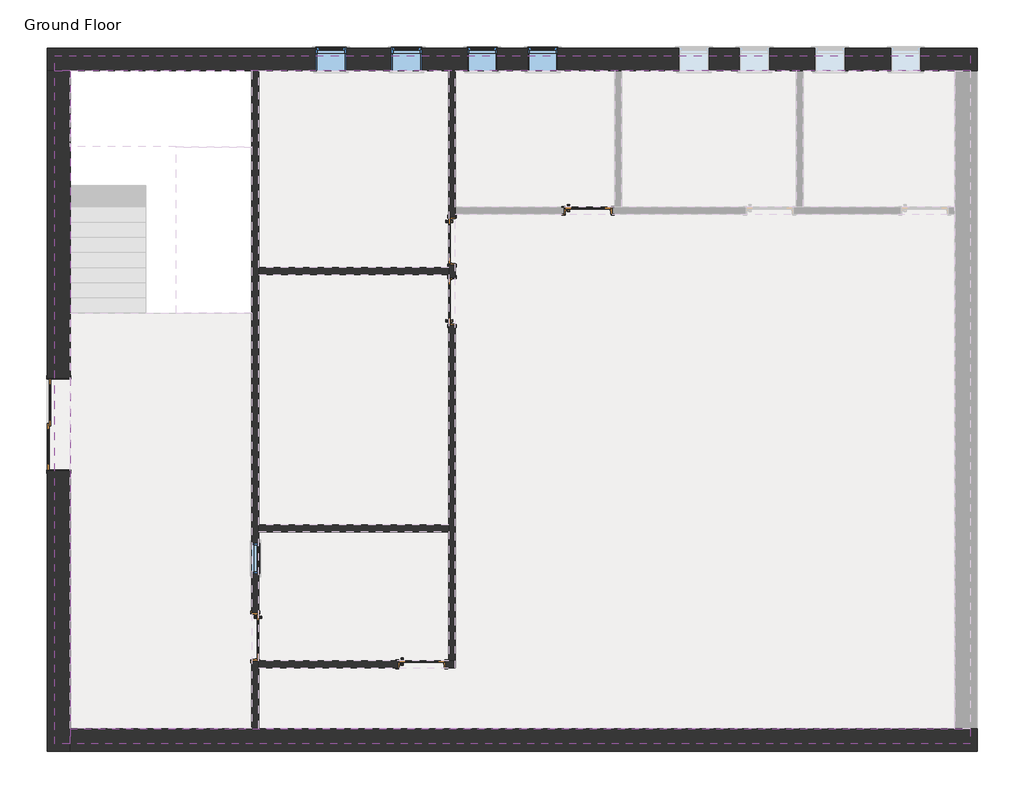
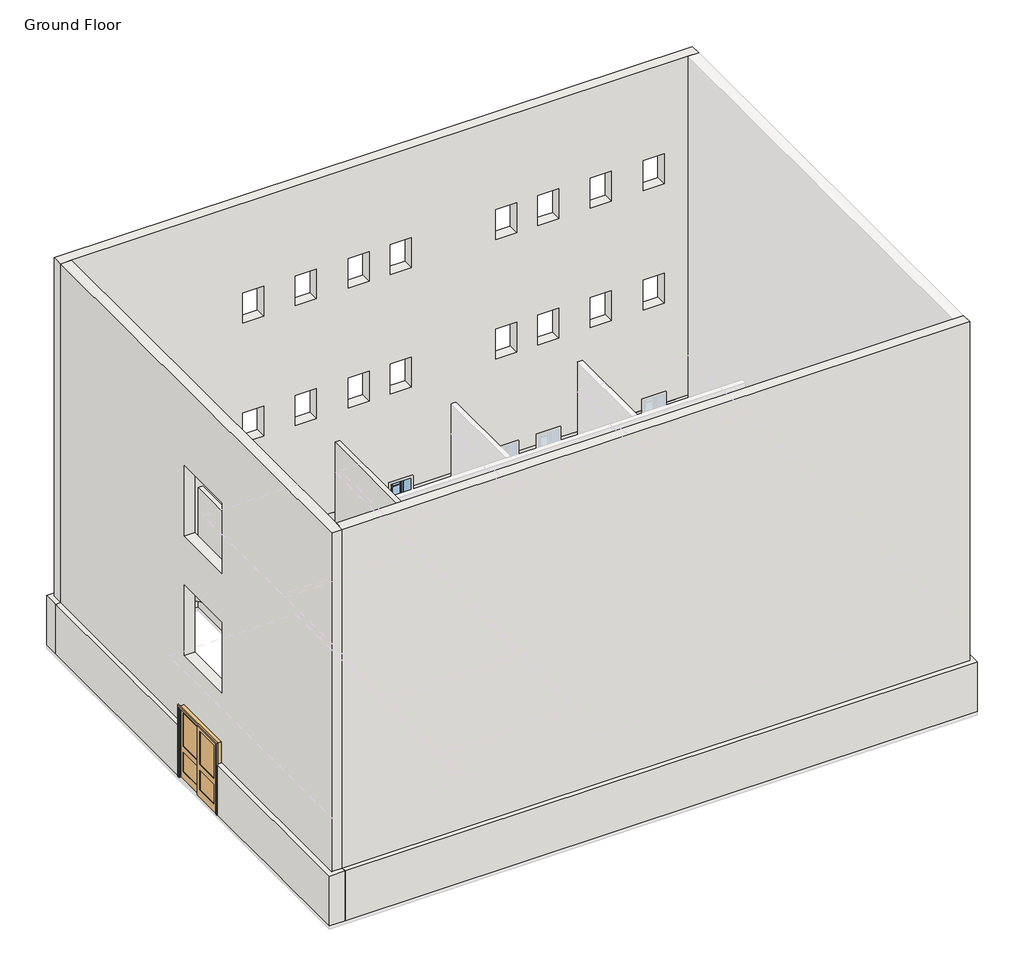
# One storey, part 1 of 2: 11 walls, 6 doors, 5 windows.
"""IFC4 building model written with IfcOpenShell, lengths in millimetres."""

from ifc_helpers import new_model, si_unit, origin, origin_with_axes, place, context, project, spatial, polyline, outline, extrude, faceted_brep, transform, mapped, element, save
from components import door_5c496fa4, door_918c180d, door_79dd3e86, window_d7bc73cd, window_2d4a29d0

model = new_model("IFC4")

# Units and contexts
model_context = context("Model", 3, world=origin())
ifc_project = project(units=[si_unit("LENGTHUNIT", "METRE", prefix="MILLI")], contexts=[model_context])

# Site, building, storey
site = spatial("IfcSite", under=ifc_project)
building = spatial("IfcBuilding", under=site)
storey = spatial("IfcBuildingStorey", under=building, Name="Ground Floor", Elevation=0.0)

# Doors
placement = place(None, origin())
door_shape = door_5c496fa4(model_context)
element("IfcDoor", 1, ObjectType="Door-Interior-Double-Sliding-2_Panel-Wood : 72\" x 84\"", at=placement, inside=storey, context=model_context, shape_type="MappedRepresentation", body=[
    mapped(door_shape, transform((-18194.5597136, 4559.7577587, 0.0), x_axis=(0.0, 1.0, 0.0), y_axis=(-1.0, 0.0, 0.0), z_axis=(0.0, 0.0, 1.0))),
])
door_2_shape = door_918c180d(model_context)
element("IfcDoor", 2, ObjectType="Door-Interior-Single-Full Glass-Wood : 36\" x 84\"", at=placement, inside=storey, context=model_context, shape_type="MappedRepresentation", body=[
    mapped(door_2_shape, transform((-14225.8097136, 277.7205992, 0.0), x_axis=(0.0, -1.0, 0.0), y_axis=(1.0, 0.0, 0.0), z_axis=(0.0, 0.0, 1.0))),
])
element("IfcDoor", 3, ObjectType="Door-Interior-Single-Full Glass-Wood : 36\" x 84\"", at=placement, inside=storey, context=model_context, shape_type="MappedRepresentation", body=[
    mapped(door_2_shape, transform((-10269.7597136, 7040.4705992, 0.0), x_axis=(0.0, 1.0, 0.0), y_axis=(-1.0, 0.0, 0.0), z_axis=(0.0, 0.0, 1.0))),
])
element("IfcDoor", 4, ObjectType="Door-Interior-Single-Full Glass-Wood : 36\" x 84\"", at=placement, inside=storey, context=model_context, shape_type="MappedRepresentation", body=[
    mapped(door_2_shape, transform((-7523.3847136, 8872.4455992, 0.0), x_axis=(1.0, 0.0, 0.0), y_axis=(0.0, 1.0, 0.0), z_axis=(0.0, 0.0, 1.0))),
])
element("IfcDoor", 5, ObjectType="Door-Interior-Single-Full Glass-Wood : 36\" x 84\"", at=placement, inside=storey, context=model_context, shape_type="MappedRepresentation", body=[
    mapped(door_2_shape, transform((-10876.1847136, -271.5544008, 0.0), x_axis=(1.0, 0.0, 0.0), y_axis=(0.0, 1.0, 0.0), z_axis=(0.0, 0.0, 1.0))),
])
door_3_shape = door_79dd3e86(model_context)
element("IfcDoor", 6, ObjectType="Door-Interior-Single-Full Glass-Wood : 36\" x 84\"", at=placement, inside=storey, context=model_context, shape_type="MappedRepresentation", body=[
    mapped(door_3_shape, transform((-10269.7597136, 8259.6705992, 0.0), x_axis=(0.0, -1.0, 0.0), y_axis=(1.0, 0.0, 0.0), z_axis=(0.0, 0.0, 1.0))),
])

# Walls
element("IfcWall", 7, ObjectType="Exterior - CMU on Mtl. Stud", at=placement, inside=storey, context=model_context, shape_type="Brep", body=[
    faceted_brep([(-18418.3972136, 11690.2580992, 0.0), (-17964.3722136, 11690.2580992, 0.0), (-14298.8347136, 11690.2580992, 0.0), (-14159.1347136, 11690.2580992, 0.0), (-10336.4347136, 11690.2580992, 0.0), (-10196.7347136, 11690.2580992, 0.0), (-6983.6347136, 11690.2580992, 0.0), (-6843.9347136, 11690.2580992, 0.0), (-3326.0347136, 11690.2580992, 0.0), (-3186.3347136, 11690.2580992, 0.0), (-130.3972136, 11690.2580992, 0.0), (323.6277864, 11690.2580992, 0.0), (323.6277864, 11690.2580992, 1524.0), (180.7527864, 11690.2580992, 1524.0), (-130.3972136, 11690.2580992, 1524.0), (-817.7847136, 11690.2580992, 1524.0), (-817.7847136, 11690.2580992, 914.4), (-1427.3847136, 11690.2580992, 914.4), (-1427.3847136, 11690.2580992, 1524.0), (-2341.7847136, 11690.2580992, 1524.0), (-2341.7847136, 11690.2580992, 914.4), (-2951.3847136, 11690.2580992, 914.4), (-2951.3847136, 11690.2580992, 1524.0), (-3865.7847136, 11690.2580992, 1524.0), (-3865.7847136, 11690.2580992, 914.4), (-4475.3847136, 11690.2580992, 914.4), (-4475.3847136, 11690.2580992, 1524.0), (-5084.9847136, 11690.2580992, 1524.0), (-5084.9847136, 11690.2580992, 914.4), (-5694.5847136, 11690.2580992, 914.4), (-5694.5847136, 11690.2580992, 1524.0), (-8132.9847136, 11690.2580992, 1524.0), (-8132.9847136, 11690.2580992, 914.4), (-8742.5847136, 11690.2580992, 914.4), (-8742.5847136, 11690.2580992, 1524.0), (-9352.1847136, 11690.2580992, 1524.0), (-9352.1847136, 11690.2580992, 914.4), (-9961.7847136, 11690.2580992, 914.4), (-9961.7847136, 11690.2580992, 1524.0), (-10876.1847136, 11690.2580992, 1524.0), (-10876.1847136, 11690.2580992, 914.4), (-11485.7847136, 11690.2580992, 914.4), (-11485.7847136, 11690.2580992, 1524.0), (-12400.1847136, 11690.2580992, 1524.0), (-12400.1847136, 11690.2580992, 914.4), (-13009.7847136, 11690.2580992, 914.4), (-13009.7847136, 11690.2580992, 1524.0), (-17964.3722136, 11690.2580992, 1524.0), (-18275.5222136, 11690.2580992, 1524.0), (-18418.3972136, 11690.2580992, 1524.0), (323.6277864, 12144.2830992, 0.0), (-18418.3972136, 12144.2830992, 0.0), (-18418.3972136, 12144.2830992, 1524.0), (-13009.7847136, 12144.2830992, 1524.0), (-13009.7847136, 12144.2830992, 914.4), (-12400.1847136, 12144.2830992, 914.4), (-12400.1847136, 12144.2830992, 1524.0), (-11485.7847136, 12144.2830992, 1524.0), (-11485.7847136, 12144.2830992, 914.4), (-10876.1847136, 12144.2830992, 914.4), (-10876.1847136, 12144.2830992, 1524.0), (-9961.7847136, 12144.2830992, 1524.0), (-9961.7847136, 12144.2830992, 914.4), (-9352.1847136, 12144.2830992, 914.4), (-9352.1847136, 12144.2830992, 1524.0), (-8742.5847136, 12144.2830992, 1524.0), (-8742.5847136, 12144.2830992, 914.4), (-8132.9847136, 12144.2830992, 914.4), (-8132.9847136, 12144.2830992, 1524.0), (-5694.5847136, 12144.2830992, 1524.0), (-5694.5847136, 12144.2830992, 914.4), (-5084.9847136, 12144.2830992, 914.4), (-5084.9847136, 12144.2830992, 1524.0), (-4475.3847136, 12144.2830992, 1524.0), (-4475.3847136, 12144.2830992, 914.4), (-3865.7847136, 12144.2830992, 914.4), (-3865.7847136, 12144.2830992, 1524.0), (-2951.3847136, 12144.2830992, 1524.0), (-2951.3847136, 12144.2830992, 914.4), (-2341.7847136, 12144.2830992, 914.4), (-2341.7847136, 12144.2830992, 1524.0), (-1427.3847136, 12144.2830992, 1524.0), (-1427.3847136, 12144.2830992, 914.4), (-817.7847136, 12144.2830992, 914.4), (-817.7847136, 12144.2830992, 1524.0), (323.6277864, 12144.2830992, 1524.0), (-13009.7847136, 12001.4080992, 1524.0), (-817.7847136, 12001.4080992, 1524.0), (-1427.3847136, 12001.4080992, 1524.0), (-2341.7847136, 12001.4080992, 1524.0), (-2951.3847136, 12001.4080992, 1524.0), (-3865.7847136, 12001.4080992, 1524.0), (-4475.3847136, 12001.4080992, 1524.0), (-5084.9847136, 12001.4080992, 1524.0), (-5694.5847136, 12001.4080992, 1524.0), (-8132.9847136, 12001.4080992, 1524.0), (-8742.5847136, 12001.4080992, 1524.0), (-9352.1847136, 12001.4080992, 1524.0), (-9961.7847136, 12001.4080992, 1524.0), (-10876.1847136, 12001.4080992, 1524.0), (-11485.7847136, 12001.4080992, 1524.0), (-12400.1847136, 12001.4080992, 1524.0)], [[[0, 1, 2, 3, 4, 5, 6, 7, 8, 9, 10, 11, 12, 13, 14, 15, 16, 17, 18, 19, 20, 21, 22, 23, 24, 25, 26, 27, 28, 29, 30, 31, 32, 33, 34, 35, 36, 37, 38, 39, 40, 41, 42, 43, 44, 45, 46, 47, 48, 49]], [[50, 51, 52, 53, 54, 55, 56, 57, 58, 59, 60, 61, 62, 63, 64, 65, 66, 67, 68, 69, 70, 71, 72, 73, 74, 75, 76, 77, 78, 79, 80, 81, 82, 83, 84, 85]], [[11, 10, 9, 8, 7, 6, 5, 4, 3, 2, 1, 0, 51, 50]], [[52, 49, 48, 47, 46, 86, 53]], [[12, 85, 84, 87, 15, 14, 13]], [[18, 88, 81, 80, 89, 19]], [[22, 90, 77, 76, 91, 23]], [[26, 92, 73, 72, 93, 27]], [[30, 94, 69, 68, 95, 31]], [[34, 96, 65, 64, 97, 35]], [[38, 98, 61, 60, 99, 39]], [[42, 100, 57, 56, 101, 43]], [[0, 49, 52, 51]], [[12, 11, 50, 85]], [[83, 16, 15, 87, 84]], [[16, 83, 82, 17]], [[17, 82, 81, 88, 18]], [[79, 20, 19, 89, 80]], [[20, 79, 78, 21]], [[21, 78, 77, 90, 22]], [[75, 24, 23, 91, 76]], [[24, 75, 74, 25]], [[25, 74, 73, 92, 26]], [[71, 28, 27, 93, 72]], [[28, 71, 70, 29]], [[29, 70, 69, 94, 30]], [[33, 66, 65, 96, 34]], [[66, 33, 32, 67]], [[67, 32, 31, 95, 68]], [[37, 62, 61, 98, 38]], [[62, 37, 36, 63]], [[63, 36, 35, 97, 64]], [[41, 58, 57, 100, 42]], [[58, 41, 40, 59]], [[59, 40, 39, 99, 60]], [[45, 54, 53, 86, 46]], [[54, 45, 44, 55]], [[55, 44, 43, 101, 56]]]),
])
element("IfcWall", 8, ObjectType="Exterior - CMU on Mtl. Stud", at=placement, inside=storey, context=model_context, shape_type="Brep", body=[
    faceted_brep([(-17964.3722136, 11690.2580992, 0.0), (-17964.3722136, 11690.2580992, 1524.0), (-17964.3722136, 5499.5577587, 1524.0), (-17964.3722136, 5499.5577587, 0.0), (-18418.3972136, 11690.2580992, 1524.0), (-18418.3972136, 11690.2580992, 0.0), (-18418.3972136, 5499.5577587, 0.0), (-18418.3972136, 5499.5577587, 1524.0), (-18275.5222136, 11690.2580992, 1524.0), (-18275.5222136, 5499.5577587, 1524.0)], [[[0, 1, 2, 3]], [[4, 5, 6, 7]], [[5, 0, 3, 6]], [[1, 8, 4, 7, 9, 2]], [[1, 0, 5, 4, 8]], [[3, 2, 9, 7, 6]]]),
    faceted_brep([(-17964.3722136, -2025.7419008, 1524.0), (-17964.3722136, -2025.7419008, 0.0), (-17964.3722136, -1571.7169008, 0.0), (-17964.3722136, 3619.9577587, 0.0), (-17964.3722136, 3619.9577587, 1524.0), (-17964.3722136, -1571.7169008, 1524.0), (-17964.3722136, -1882.8669008, 1524.0), (-18418.3972136, -2025.7419008, 0.0), (-18418.3972136, -2025.7419008, 1524.0), (-18418.3972136, 3619.9577587, 1524.0), (-18418.3972136, 3619.9577587, 0.0), (-18275.5222136, 3619.9577587, 1524.0)], [[[0, 1, 2, 3, 4, 5, 6]], [[7, 8, 9, 10]], [[1, 7, 10, 3, 2]], [[8, 0, 6, 5, 4, 11, 9]], [[1, 0, 8, 7]], [[4, 3, 10, 9, 11]]]),
])
element("IfcWall", 9, ObjectType="Exterior - CMU on Mtl. Stud", at=placement, inside=storey, context=model_context, shape_type="Brep", body=[
    faceted_brep([(323.6277864, -1571.7169008, 0.0), (-130.3972136, -1571.7169008, 0.0), (-14159.1347136, -1571.7169008, 0.0), (-14298.8347136, -1571.7169008, 0.0), (-17964.3722136, -1571.7169008, 0.0), (-17964.3722136, -1571.7169008, 1524.0), (-130.3972136, -1571.7169008, 1524.0), (180.7527864, -1571.7169008, 1524.0), (323.6277864, -1571.7169008, 1524.0), (323.6277864, -2025.7419008, 0.0), (323.6277864, -2025.7419008, 1524.0), (-17964.3722136, -2025.7419008, 1524.0), (-17964.3722136, -2025.7419008, 0.0), (-17964.3722136, -1882.8669008, 1524.0)], [[[0, 1, 2, 3, 4, 5, 6, 7, 8]], [[9, 10, 11, 12]], [[4, 3, 2, 1, 0, 9, 12]], [[8, 7, 6, 5, 13, 11, 10]], [[0, 8, 10, 9]], [[5, 4, 12, 11, 13]]]),
])
element("IfcWall", 10, ObjectType="Exterior - EIFS on Mtl. Stud", at=placement, inside=storey, context=model_context, shape_type="Brep", body=[
    faceted_brep([(180.7527864, 11690.2580992, 11887.2), (-130.3972136, 11690.2580992, 11887.2), (-17964.3722136, 11690.2580992, 11887.2), (-18275.5222136, 11690.2580992, 11887.2), (-18275.5222136, 11690.2580992, 1524.0), (-17964.3722136, 11690.2580992, 1524.0), (-13009.7847136, 11690.2580992, 1524.0), (-13009.7847136, 11690.2580992, 1828.8), (-12400.1847136, 11690.2580992, 1828.8), (-12400.1847136, 11690.2580992, 1524.0), (-11485.7847136, 11690.2580992, 1524.0), (-11485.7847136, 11690.2580992, 1828.8), (-10876.1847136, 11690.2580992, 1828.8), (-10876.1847136, 11690.2580992, 1524.0), (-9961.7847136, 11690.2580992, 1524.0), (-9961.7847136, 11690.2580992, 1828.8), (-9352.1847136, 11690.2580992, 1828.8), (-9352.1847136, 11690.2580992, 1524.0), (-8742.5847136, 11690.2580992, 1524.0), (-8742.5847136, 11690.2580992, 1828.8), (-8132.9847136, 11690.2580992, 1828.8), (-8132.9847136, 11690.2580992, 1524.0), (-5694.5847136, 11690.2580992, 1524.0), (-5694.5847136, 11690.2580992, 1828.8), (-5084.9847136, 11690.2580992, 1828.8), (-5084.9847136, 11690.2580992, 1524.0), (-4475.3847136, 11690.2580992, 1524.0), (-4475.3847136, 11690.2580992, 1828.8), (-3865.7847136, 11690.2580992, 1828.8), (-3865.7847136, 11690.2580992, 1524.0), (-2951.3847136, 11690.2580992, 1524.0), (-2951.3847136, 11690.2580992, 1828.8), (-2341.7847136, 11690.2580992, 1828.8), (-2341.7847136, 11690.2580992, 1524.0), (-1427.3847136, 11690.2580992, 1524.0), (-1427.3847136, 11690.2580992, 1828.8), (-817.7847136, 11690.2580992, 1828.8), (-817.7847136, 11690.2580992, 1524.0), (-130.3972136, 11690.2580992, 1524.0), (180.7527864, 11690.2580992, 1524.0), (-8742.5847136, 11690.2580992, 4572.0), (-8742.5847136, 11690.2580992, 5486.4), (-8132.9847136, 11690.2580992, 5486.4), (-8132.9847136, 11690.2580992, 4572.0), (-9961.7847136, 11690.2580992, 4572.0), (-9961.7847136, 11690.2580992, 5486.4), (-9352.1847136, 11690.2580992, 5486.4), (-9352.1847136, 11690.2580992, 4572.0), (-11485.7847136, 11690.2580992, 4572.0), (-11485.7847136, 11690.2580992, 5486.4), (-10876.1847136, 11690.2580992, 5486.4), (-10876.1847136, 11690.2580992, 4572.0), (-13009.7847136, 11690.2580992, 4572.0), (-13009.7847136, 11690.2580992, 5486.4), (-12400.1847136, 11690.2580992, 5486.4), (-12400.1847136, 11690.2580992, 4572.0), (-5084.9847136, 11690.2580992, 5486.4), (-5084.9847136, 11690.2580992, 4572.0), (-5694.5847136, 11690.2580992, 4572.0), (-5694.5847136, 11690.2580992, 5486.4), (-3865.7847136, 11690.2580992, 5486.4), (-3865.7847136, 11690.2580992, 4572.0), (-4475.3847136, 11690.2580992, 4572.0), (-4475.3847136, 11690.2580992, 5486.4), (-2341.7847136, 11690.2580992, 5486.4), (-2341.7847136, 11690.2580992, 4572.0), (-2951.3847136, 11690.2580992, 4572.0), (-2951.3847136, 11690.2580992, 5486.4), (-817.7847136, 11690.2580992, 5486.4), (-817.7847136, 11690.2580992, 4572.0), (-1427.3847136, 11690.2580992, 4572.0), (-1427.3847136, 11690.2580992, 5486.4), (-8742.5847136, 11690.2580992, 8229.6), (-8742.5847136, 11690.2580992, 9144.0), (-8132.9847136, 11690.2580992, 9144.0), (-8132.9847136, 11690.2580992, 8229.6), (-9961.7847136, 11690.2580992, 8229.6), (-9961.7847136, 11690.2580992, 9144.0), (-9352.1847136, 11690.2580992, 9144.0), (-9352.1847136, 11690.2580992, 8229.6), (-11485.7847136, 11690.2580992, 8229.6), (-11485.7847136, 11690.2580992, 9144.0), (-10876.1847136, 11690.2580992, 9144.0), (-10876.1847136, 11690.2580992, 8229.6), (-13009.7847136, 11690.2580992, 8229.6), (-13009.7847136, 11690.2580992, 9144.0), (-12400.1847136, 11690.2580992, 9144.0), (-12400.1847136, 11690.2580992, 8229.6), (-5084.9847136, 11690.2580992, 9144.0), (-5084.9847136, 11690.2580992, 8229.6), (-5694.5847136, 11690.2580992, 8229.6), (-5694.5847136, 11690.2580992, 9144.0), (-3865.7847136, 11690.2580992, 9144.0), (-3865.7847136, 11690.2580992, 8229.6), (-4475.3847136, 11690.2580992, 8229.6), (-4475.3847136, 11690.2580992, 9144.0), (-2341.7847136, 11690.2580992, 9144.0), (-2341.7847136, 11690.2580992, 8229.6), (-2951.3847136, 11690.2580992, 8229.6), (-2951.3847136, 11690.2580992, 9144.0), (-817.7847136, 11690.2580992, 9144.0), (-817.7847136, 11690.2580992, 8229.6), (-1427.3847136, 11690.2580992, 8229.6), (-1427.3847136, 11690.2580992, 9144.0), (-18275.5222136, 12001.4080992, 11887.2), (180.7527864, 12001.4080992, 11887.2), (180.7527864, 12001.4080992, 1524.0), (-817.7847136, 12001.4080992, 1524.0), (-817.7847136, 12001.4080992, 1828.8), (-1427.3847136, 12001.4080992, 1828.8), (-1427.3847136, 12001.4080992, 1524.0), (-2341.7847136, 12001.4080992, 1524.0), (-2341.7847136, 12001.4080992, 1828.8), (-2951.3847136, 12001.4080992, 1828.8), (-2951.3847136, 12001.4080992, 1524.0), (-3865.7847136, 12001.4080992, 1524.0), (-3865.7847136, 12001.4080992, 1828.8), (-4475.3847136, 12001.4080992, 1828.8), (-4475.3847136, 12001.4080992, 1524.0), (-5084.9847136, 12001.4080992, 1524.0), (-5084.9847136, 12001.4080992, 1828.8), (-5694.5847136, 12001.4080992, 1828.8), (-5694.5847136, 12001.4080992, 1524.0), (-8132.9847136, 12001.4080992, 1524.0), (-8132.9847136, 12001.4080992, 1828.8), (-8742.5847136, 12001.4080992, 1828.8), (-8742.5847136, 12001.4080992, 1524.0), (-9352.1847136, 12001.4080992, 1524.0), (-9352.1847136, 12001.4080992, 1828.8), (-9961.7847136, 12001.4080992, 1828.8), (-9961.7847136, 12001.4080992, 1524.0), (-10876.1847136, 12001.4080992, 1524.0), (-10876.1847136, 12001.4080992, 1828.8), (-11485.7847136, 12001.4080992, 1828.8), (-11485.7847136, 12001.4080992, 1524.0), (-12400.1847136, 12001.4080992, 1524.0), (-12400.1847136, 12001.4080992, 1828.8), (-13009.7847136, 12001.4080992, 1828.8), (-13009.7847136, 12001.4080992, 1524.0), (-18275.5222136, 12001.4080992, 1524.0), (-8742.5847136, 12001.4080992, 5486.4), (-8742.5847136, 12001.4080992, 4572.0), (-8132.9847136, 12001.4080992, 4572.0), (-8132.9847136, 12001.4080992, 5486.4), (-9961.7847136, 12001.4080992, 5486.4), (-9961.7847136, 12001.4080992, 4572.0), (-9352.1847136, 12001.4080992, 4572.0), (-9352.1847136, 12001.4080992, 5486.4), (-11485.7847136, 12001.4080992, 5486.4), (-11485.7847136, 12001.4080992, 4572.0), (-10876.1847136, 12001.4080992, 4572.0), (-10876.1847136, 12001.4080992, 5486.4), (-13009.7847136, 12001.4080992, 5486.4), (-13009.7847136, 12001.4080992, 4572.0), (-12400.1847136, 12001.4080992, 4572.0), (-12400.1847136, 12001.4080992, 5486.4), (-5084.9847136, 12001.4080992, 4572.0), (-5084.9847136, 12001.4080992, 5486.4), (-5694.5847136, 12001.4080992, 5486.4), (-5694.5847136, 12001.4080992, 4572.0), (-3865.7847136, 12001.4080992, 4572.0), (-3865.7847136, 12001.4080992, 5486.4), (-4475.3847136, 12001.4080992, 5486.4), (-4475.3847136, 12001.4080992, 4572.0), (-2341.7847136, 12001.4080992, 4572.0), (-2341.7847136, 12001.4080992, 5486.4), (-2951.3847136, 12001.4080992, 5486.4), (-2951.3847136, 12001.4080992, 4572.0), (-817.7847136, 12001.4080992, 4572.0), (-817.7847136, 12001.4080992, 5486.4), (-1427.3847136, 12001.4080992, 5486.4), (-1427.3847136, 12001.4080992, 4572.0), (-8742.5847136, 12001.4080992, 9144.0), (-8742.5847136, 12001.4080992, 8229.6), (-8132.9847136, 12001.4080992, 8229.6), (-8132.9847136, 12001.4080992, 9144.0), (-9961.7847136, 12001.4080992, 9144.0), (-9961.7847136, 12001.4080992, 8229.6), (-9352.1847136, 12001.4080992, 8229.6), (-9352.1847136, 12001.4080992, 9144.0), (-11485.7847136, 12001.4080992, 9144.0), (-11485.7847136, 12001.4080992, 8229.6), (-10876.1847136, 12001.4080992, 8229.6), (-10876.1847136, 12001.4080992, 9144.0), (-13009.7847136, 12001.4080992, 9144.0), (-13009.7847136, 12001.4080992, 8229.6), (-12400.1847136, 12001.4080992, 8229.6), (-12400.1847136, 12001.4080992, 9144.0), (-5084.9847136, 12001.4080992, 8229.6), (-5084.9847136, 12001.4080992, 9144.0), (-5694.5847136, 12001.4080992, 9144.0), (-5694.5847136, 12001.4080992, 8229.6), (-3865.7847136, 12001.4080992, 8229.6), (-3865.7847136, 12001.4080992, 9144.0), (-4475.3847136, 12001.4080992, 9144.0), (-4475.3847136, 12001.4080992, 8229.6), (-2341.7847136, 12001.4080992, 8229.6), (-2341.7847136, 12001.4080992, 9144.0), (-2951.3847136, 12001.4080992, 9144.0), (-2951.3847136, 12001.4080992, 8229.6), (-817.7847136, 12001.4080992, 8229.6), (-817.7847136, 12001.4080992, 9144.0), (-1427.3847136, 12001.4080992, 9144.0), (-1427.3847136, 12001.4080992, 8229.6)], [[[0, 1, 2, 3, 4, 5, 6, 7, 8, 9, 10, 11, 12, 13, 14, 15, 16, 17, 18, 19, 20, 21, 22, 23, 24, 25, 26, 27, 28, 29, 30, 31, 32, 33, 34, 35, 36, 37, 38, 39], [40, 41, 42, 43], [44, 45, 46, 47], [48, 49, 50, 51], [52, 53, 54, 55], [56, 57, 58, 59], [60, 61, 62, 63], [64, 65, 66, 67], [68, 69, 70, 71], [72, 73, 74, 75], [76, 77, 78, 79], [80, 81, 82, 83], [84, 85, 86, 87], [88, 89, 90, 91], [92, 93, 94, 95], [96, 97, 98, 99], [100, 101, 102, 103]], [[104, 105, 106, 107, 108, 109, 110, 111, 112, 113, 114, 115, 116, 117, 118, 119, 120, 121, 122, 123, 124, 125, 126, 127, 128, 129, 130, 131, 132, 133, 134, 135, 136, 137, 138, 139], [140, 141, 142, 143], [144, 145, 146, 147], [148, 149, 150, 151], [152, 153, 154, 155], [156, 157, 158, 159], [160, 161, 162, 163], [164, 165, 166, 167], [168, 169, 170, 171], [172, 173, 174, 175], [176, 177, 178, 179], [180, 181, 182, 183], [184, 185, 186, 187], [188, 189, 190, 191], [192, 193, 194, 195], [196, 197, 198, 199], [200, 201, 202, 203]], [[4, 139, 138, 6, 5]], [[106, 39, 38, 37, 107]], [[110, 34, 33, 111]], [[114, 30, 29, 115]], [[118, 26, 25, 119]], [[122, 22, 21, 123]], [[126, 18, 17, 127]], [[130, 14, 13, 131]], [[134, 10, 9, 135]], [[3, 2, 1, 0, 105, 104]], [[4, 3, 104, 139]], [[0, 39, 106, 105]], [[36, 108, 107, 37]], [[109, 35, 34, 110]], [[108, 36, 35, 109]], [[32, 112, 111, 33]], [[113, 31, 30, 114]], [[112, 32, 31, 113]], [[28, 116, 115, 29]], [[117, 27, 26, 118]], [[116, 28, 27, 117]], [[24, 120, 119, 25]], [[121, 23, 22, 122]], [[120, 24, 23, 121]], [[125, 19, 18, 126]], [[20, 124, 123, 21]], [[19, 125, 124, 20]], [[129, 15, 14, 130]], [[16, 128, 127, 17]], [[15, 129, 128, 16]], [[133, 11, 10, 134]], [[12, 132, 131, 13]], [[11, 133, 132, 12]], [[137, 7, 6, 138]], [[8, 136, 135, 9]], [[7, 137, 136, 8]], [[140, 41, 40, 141]], [[141, 40, 43, 142]], [[142, 43, 42, 143]], [[41, 140, 143, 42]], [[144, 45, 44, 145]], [[145, 44, 47, 146]], [[146, 47, 46, 147]], [[45, 144, 147, 46]], [[148, 49, 48, 149]], [[149, 48, 51, 150]], [[150, 51, 50, 151]], [[49, 148, 151, 50]], [[152, 53, 52, 153]], [[153, 52, 55, 154]], [[154, 55, 54, 155]], [[53, 152, 155, 54]], [[56, 157, 156, 57]], [[57, 156, 159, 58]], [[58, 159, 158, 59]], [[157, 56, 59, 158]], [[60, 161, 160, 61]], [[61, 160, 163, 62]], [[62, 163, 162, 63]], [[161, 60, 63, 162]], [[64, 165, 164, 65]], [[65, 164, 167, 66]], [[66, 167, 166, 67]], [[165, 64, 67, 166]], [[68, 169, 168, 69]], [[69, 168, 171, 70]], [[70, 171, 170, 71]], [[169, 68, 71, 170]], [[172, 73, 72, 173]], [[173, 72, 75, 174]], [[174, 75, 74, 175]], [[73, 172, 175, 74]], [[176, 77, 76, 177]], [[177, 76, 79, 178]], [[178, 79, 78, 179]], [[77, 176, 179, 78]], [[180, 81, 80, 181]], [[181, 80, 83, 182]], [[182, 83, 82, 183]], [[81, 180, 183, 82]], [[184, 85, 84, 185]], [[185, 84, 87, 186]], [[186, 87, 86, 187]], [[85, 184, 187, 86]], [[88, 189, 188, 89]], [[89, 188, 191, 90]], [[90, 191, 190, 91]], [[189, 88, 91, 190]], [[92, 193, 192, 93]], [[93, 192, 195, 94]], [[94, 195, 194, 95]], [[193, 92, 95, 194]], [[96, 197, 196, 97]], [[97, 196, 199, 98]], [[98, 199, 198, 99]], [[197, 96, 99, 198]], [[100, 201, 200, 101]], [[101, 200, 203, 102]], [[102, 203, 202, 103]], [[201, 100, 103, 202]]]),
])
element("IfcWall", 11, ObjectType="Exterior - EIFS on Mtl. Stud", at=placement, inside=storey, context=model_context, shape_type="Brep", body=[
    faceted_brep([(-17964.3722136, 11690.2580992, 11887.2), (-17964.3722136, -1571.7169008, 11887.2), (-17964.3722136, -1882.8669008, 11887.2), (-17964.3722136, -1882.8669008, 1524.0), (-17964.3722136, -1571.7169008, 1524.0), (-17964.3722136, 3619.9577587, 1524.0), (-17964.3722136, 3619.9577587, 2159.0), (-17964.3722136, 5499.5577587, 2159.0), (-17964.3722136, 5499.5577587, 1524.0), (-17964.3722136, 11690.2580992, 1524.0), (-17964.3722136, 5499.5577587, 5816.6), (-17964.3722136, 5499.5577587, 3657.6), (-17964.3722136, 3619.9577587, 3657.6), (-17964.3722136, 3619.9577587, 5816.6), (-17964.3722136, 5499.5577587, 9474.2), (-17964.3722136, 5499.5577587, 7315.2), (-17964.3722136, 3619.9577587, 7315.2), (-17964.3722136, 3619.9577587, 9474.2), (-18275.5222136, -1882.8669008, 11887.2), (-18275.5222136, 11690.2580992, 11887.2), (-18275.5222136, 11690.2580992, 1524.0), (-18275.5222136, 5499.5577587, 1524.0), (-18275.5222136, 5499.5577587, 2159.0), (-18275.5222136, 3619.9577587, 2159.0), (-18275.5222136, 3619.9577587, 1524.0), (-18275.5222136, -1882.8669008, 1524.0), (-18275.5222136, 5499.5577587, 3657.6), (-18275.5222136, 5499.5577587, 5816.6), (-18275.5222136, 3619.9577587, 5816.6), (-18275.5222136, 3619.9577587, 3657.6), (-18275.5222136, 5499.5577587, 7315.2), (-18275.5222136, 5499.5577587, 9474.2), (-18275.5222136, 3619.9577587, 9474.2), (-18275.5222136, 3619.9577587, 7315.2)], [[[0, 1, 2, 3, 4, 5, 6, 7, 8, 9], [10, 11, 12, 13], [14, 15, 16, 17]], [[18, 19, 20, 21, 22, 23, 24, 25], [26, 27, 28, 29], [30, 31, 32, 33]], [[3, 25, 24, 5, 4]], [[20, 9, 8, 21]], [[2, 1, 0, 19, 18]], [[3, 2, 18, 25]], [[0, 9, 20, 19]], [[7, 22, 21, 8]], [[22, 7, 6, 23]], [[23, 6, 5, 24]], [[26, 11, 10, 27]], [[27, 10, 13, 28]], [[28, 13, 12, 29]], [[11, 26, 29, 12]], [[30, 15, 14, 31]], [[31, 14, 17, 32]], [[32, 17, 16, 33]], [[15, 30, 33, 16]]]),
])
element("IfcWall", 12, ObjectType="Exterior - EIFS on Mtl. Stud", at=placement, inside=storey, context=model_context, shape_type="Brep", body=[
    faceted_brep([(180.7527864, -1571.7169008, 1524.0), (-130.3972136, -1571.7169008, 1524.0), (-17964.3722136, -1571.7169008, 1524.0), (-17964.3722136, -1571.7169008, 11887.2), (-130.3972136, -1571.7169008, 11887.2), (180.7527864, -1571.7169008, 11887.2), (180.7527864, -1882.8669008, 1524.0), (180.7527864, -1882.8669008, 11887.2), (-17964.3722136, -1882.8669008, 11887.2), (-17964.3722136, -1882.8669008, 1524.0)], [[[0, 1, 2, 3, 4, 5]], [[6, 7, 8, 9]], [[2, 1, 0, 6, 9]], [[5, 4, 3, 8, 7]], [[0, 5, 7, 6]], [[3, 2, 9, 8]]]),
])
element("IfcWall", 13, ObjectType="Interior - 5 1/2\" Partition (1-hr)", at=placement, inside=storey, context=model_context, shape_type="Brep", body=[
    faceted_brep([(-14298.8347136, -1571.7169008, 3657.6), (-14298.8347136, 11690.2580992, 3657.6), (-14298.8347136, 11690.2580992, 0.0), (-14298.8347136, 760.3205992, 0.0), (-14298.8347136, 760.3205992, 2159.0), (-14298.8347136, -204.8794008, 2159.0), (-14298.8347136, -204.8794008, 0.0), (-14298.8347136, -1571.7169008, 0.0), (-14298.8347136, 1554.0705992, 1828.8), (-14298.8347136, 1554.0705992, 914.4), (-14298.8347136, 2163.6705992, 914.4), (-14298.8347136, 2163.6705992, 1828.8), (-14159.1347136, 11690.2580992, 3657.6), (-14159.1347136, 7719.9205992, 3657.6), (-14159.1347136, 7580.2205992, 3657.6), (-14159.1347136, 2538.3205992, 3657.6), (-14159.1347136, 2398.6205992, 3657.6), (-14159.1347136, -204.8794008, 3657.6), (-14159.1347136, -344.5794008, 3657.6), (-14159.1347136, -1571.7169008, 3657.6), (-14159.1347136, -1571.7169008, 0.0), (-14159.1347136, -344.5794008, 0.0), (-14159.1347136, -204.8794008, 0.0), (-14159.1347136, -204.8794008, 2159.0), (-14159.1347136, 760.3205992, 2159.0), (-14159.1347136, 760.3205992, 0.0), (-14159.1347136, 2398.6205992, 0.0), (-14159.1347136, 2538.3205992, 0.0), (-14159.1347136, 7580.2205992, 0.0), (-14159.1347136, 7719.9205992, 0.0), (-14159.1347136, 11690.2580992, 0.0), (-14159.1347136, 1554.0705992, 1828.8), (-14159.1347136, 2163.6705992, 1828.8), (-14159.1347136, 2163.6705992, 914.4), (-14159.1347136, 1554.0705992, 914.4)], [[[0, 1, 2, 3, 4, 5, 6, 7], [8, 9, 10, 11]], [[12, 13, 14, 15, 16, 17, 18, 19, 20, 21, 22, 23, 24, 25, 26, 27, 28, 29, 30], [31, 32, 33, 34]], [[2, 30, 29, 28, 27, 26, 25, 3]], [[20, 7, 6, 22, 21]], [[1, 0, 19, 18, 17, 16, 15, 14, 13, 12]], [[30, 2, 1, 12]], [[7, 20, 19, 0]], [[5, 23, 22, 6]], [[23, 5, 4, 24]], [[24, 4, 3, 25]], [[9, 8, 31, 34]], [[10, 9, 34, 33]], [[11, 10, 33, 32]], [[8, 11, 32, 31]]]),
])
element("IfcWall", 14, ObjectType="Interior - 5 1/2\" Partition (1-hr)", at=placement, inside=storey, context=model_context, shape_type="Brep", body=[
    faceted_brep([(-10196.7347136, -344.5794008, 3657.6), (-14159.1347136, -344.5794008, 3657.6), (-14159.1347136, -344.5794008, 0.0), (-11358.7847136, -344.5794008, 0.0), (-11358.7847136, -344.5794008, 2159.0), (-10393.5847136, -344.5794008, 2159.0), (-10393.5847136, -344.5794008, 0.0), (-10196.7347136, -344.5794008, 0.0), (-14159.1347136, -204.8794008, 3657.6), (-10336.4347136, -204.8794008, 3657.6), (-10196.7347136, -204.8794008, 3657.6), (-10196.7347136, -204.8794008, 0.0), (-10336.4347136, -204.8794008, 0.0), (-10393.5847136, -204.8794008, 0.0), (-10393.5847136, -204.8794008, 2159.0), (-11358.7847136, -204.8794008, 2159.0), (-11358.7847136, -204.8794008, 0.0), (-14159.1347136, -204.8794008, 0.0), (-14159.1347136, -204.8794008, 2159.0)], [[[0, 1, 2, 3, 4, 5, 6, 7]], [[8, 9, 10, 11, 12, 13, 14, 15, 16, 17, 18]], [[2, 17, 16, 3]], [[11, 7, 6, 13, 12]], [[1, 0, 10, 9, 8]], [[2, 1, 8, 18, 17]], [[0, 7, 11, 10]], [[5, 14, 13, 6]], [[14, 5, 4, 15]], [[15, 4, 3, 16]]]),
])
element("IfcWall", 15, ObjectType="Interior - 5 1/2\" Partition (1-hr)", at=placement, inside=storey, context=model_context, shape_type="Brep", body=[
    faceted_brep([(-10196.7347136, 11690.2580992, 3657.6), (-10196.7347136, 8939.1205992, 3657.6), (-10196.7347136, 8799.4205992, 3657.6), (-10196.7347136, -204.8794008, 3657.6), (-10196.7347136, -204.8794008, 0.0), (-10196.7347136, 6557.8705992, 0.0), (-10196.7347136, 6557.8705992, 2159.0), (-10196.7347136, 7523.0705992, 2159.0), (-10196.7347136, 7523.0705992, 0.0), (-10196.7347136, 7777.0705992, 0.0), (-10196.7347136, 7777.0705992, 2159.0), (-10196.7347136, 8742.2705992, 2159.0), (-10196.7347136, 8742.2705992, 0.0), (-10196.7347136, 8799.4205992, 0.0), (-10196.7347136, 8939.1205992, 0.0), (-10196.7347136, 11690.2580992, 0.0), (-10336.4347136, -204.8794008, 3657.6), (-10336.4347136, 2398.6205992, 3657.6), (-10336.4347136, 2538.3205992, 3657.6), (-10336.4347136, 7580.2205992, 3657.6), (-10336.4347136, 7719.9205992, 3657.6), (-10336.4347136, 11690.2580992, 3657.6), (-10336.4347136, 11690.2580992, 0.0), (-10336.4347136, 8742.2705992, 0.0), (-10336.4347136, 8742.2705992, 2159.0), (-10336.4347136, 7777.0705992, 2159.0), (-10336.4347136, 7777.0705992, 0.0), (-10336.4347136, 7719.9205992, 0.0), (-10336.4347136, 7580.2205992, 0.0), (-10336.4347136, 7523.0705992, 0.0), (-10336.4347136, 7523.0705992, 2159.0), (-10336.4347136, 6557.8705992, 2159.0), (-10336.4347136, 6557.8705992, 0.0), (-10336.4347136, 2538.3205992, 0.0), (-10336.4347136, 2398.6205992, 0.0), (-10336.4347136, -204.8794008, 0.0)], [[[0, 1, 2, 3, 4, 5, 6, 7, 8, 9, 10, 11, 12, 13, 14, 15]], [[16, 17, 18, 19, 20, 21, 22, 23, 24, 25, 26, 27, 28, 29, 30, 31, 32, 33, 34, 35]], [[4, 35, 34, 33, 32, 5]], [[22, 15, 14, 13, 12, 23]], [[8, 29, 28, 27, 26, 9]], [[3, 2, 1, 0, 21, 20, 19, 18, 17, 16]], [[4, 3, 16, 35]], [[15, 22, 21, 0]], [[7, 30, 29, 8]], [[30, 7, 6, 31]], [[31, 6, 5, 32]], [[25, 10, 9, 26]], [[10, 25, 24, 11]], [[11, 24, 23, 12]]]),
])
element("IfcWall", 16, ObjectType="Interior - 5 1/2\" Partition (1-hr)", at=placement, inside=storey, context=model_context, shape_type="SweptSolid", body=[
    extrude(outline(polyline([(-10336.4347136, 7580.2205992), (-14159.1347136, 7580.2205992), (-14159.1347136, 7719.9205992), (-10336.4347136, 7719.9205992), (-10336.4347136, 7580.2205992)])), origin_with_axes(), (0.0, 0.0, 1.0), 3657.6),
])
element("IfcWall", 17, ObjectType="Interior - 5 1/2\" Partition (1-hr)", at=placement, inside=storey, context=model_context, shape_type="SweptSolid", body=[
    extrude(outline(polyline([(-10336.4347136, 2398.6205992), (-14159.1347136, 2398.6205992), (-14159.1347136, 2538.3205992), (-10336.4347136, 2538.3205992), (-10336.4347136, 2398.6205992)])), origin_with_axes(), (0.0, 0.0, 1.0), 3657.6),
])

# Windows
window_shape = window_d7bc73cd(model_context)
element("IfcWindow", 18, ObjectType="Window-Awning-Single : 24\" x 36\"", at=placement, inside=storey, context=model_context, shape_type="MappedRepresentation", body=[
    mapped(window_shape, transform((-14228.9847136, 1858.8705992, 0.0), x_axis=(0.0, -1.0, 0.0), y_axis=(1.0, 0.0, 0.0), z_axis=(0.0, 0.0, 1.0))),
])
window_2_shape = window_2d4a29d0(model_context)
element("IfcWindow", 19, ObjectType="Window-Awning-Single : 24\" x 36\"", at=placement, inside=storey, context=model_context, shape_type="MappedRepresentation", body=[
    mapped(window_2_shape, transform((-12704.9847136, 11917.2705992, 0.0), x_axis=(-1.0, 0.0, 0.0), y_axis=(0.0, -1.0, 0.0), z_axis=(0.0, 0.0, 1.0))),
])
element("IfcWindow", 20, ObjectType="Window-Awning-Single : 24\" x 36\"", at=placement, inside=storey, context=model_context, shape_type="MappedRepresentation", body=[
    mapped(window_2_shape, transform((-11180.9847136, 11917.2705992, 0.0), x_axis=(-1.0, 0.0, 0.0), y_axis=(0.0, -1.0, 0.0), z_axis=(0.0, 0.0, 1.0))),
])
element("IfcWindow", 21, ObjectType="Window-Awning-Single : 24\" x 36\"", at=placement, inside=storey, context=model_context, shape_type="MappedRepresentation", body=[
    mapped(window_2_shape, transform((-9656.9847136, 11917.2705992, 0.0), x_axis=(-1.0, 0.0, 0.0), y_axis=(0.0, -1.0, 0.0), z_axis=(0.0, 0.0, 1.0))),
])
element("IfcWindow", 22, ObjectType="Window-Awning-Single : 24\" x 36\"", at=placement, inside=storey, context=model_context, shape_type="MappedRepresentation", body=[
    mapped(window_2_shape, transform((-8437.7847136, 11917.2705992, 0.0), x_axis=(-1.0, 0.0, 0.0), y_axis=(0.0, -1.0, 0.0), z_axis=(0.0, 0.0, 1.0))),
])

save(model, "model.ifc")
